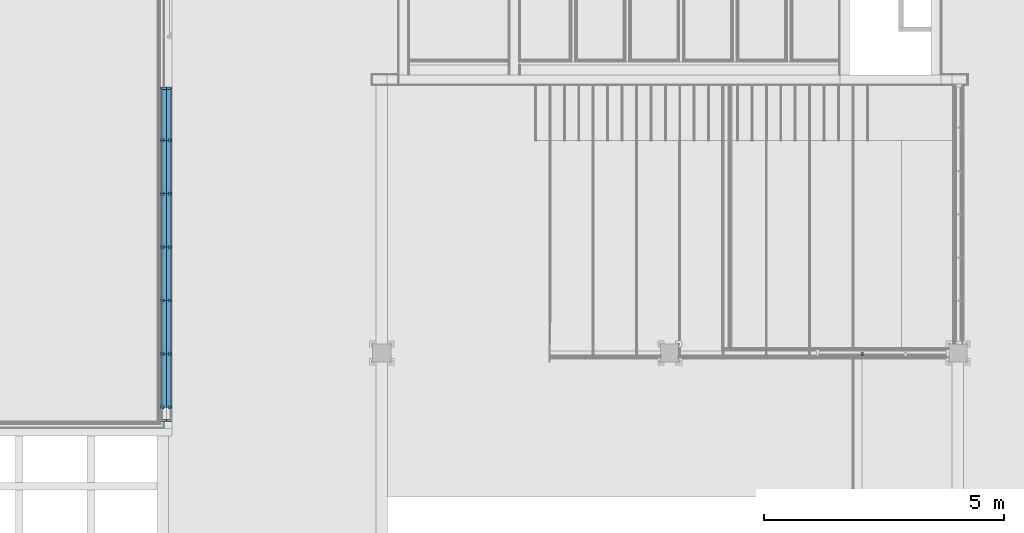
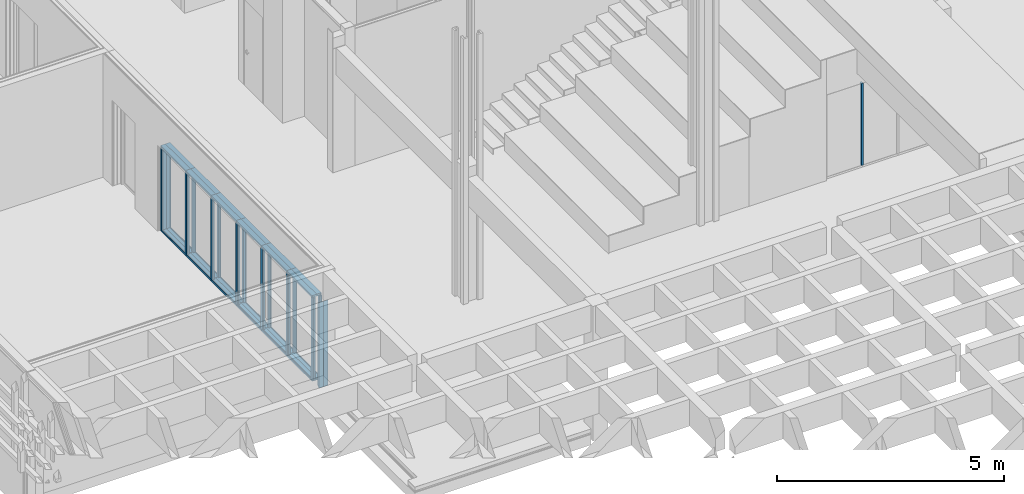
# One storey, part 7 of 139: 41 members, 3 elements without a shape of their own.
"""IFC2X3 building model written with IfcOpenShell, lengths in millimetres."""

from ifc_helpers import new_model, entity, si_unit, converted_unit, derived_unit, money_unit, direction, frame, origin_with_axes, place, context, subcontext, project, spatial, faceted_brep, source, transform, mapped, material, type_object, element, aggregate, save


model = new_model("IFC2X3")

# Units and contexts
model_context = context("Model", 3, precision=0.01, world=origin_with_axes(), true_north=direction((0.0, 1.0)))
body_context = subcontext(model_context, "Body", "Model", "MODEL_VIEW")
ifc_project = project(units=[si_unit("LENGTHUNIT", "METRE", prefix="MILLI"), si_unit("AREAUNIT", "SQUARE_METRE"), si_unit("VOLUMEUNIT", "CUBIC_METRE"), converted_unit("PLANEANGLEUNIT", "DEGREE", entity("IfcPlaneAngleMeasure", 0.0174532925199), si_unit("PLANEANGLEUNIT", "RADIAN"), dimensions=[0, 0, 0, 0, 0, 0, 0]), money_unit("EUR"), converted_unit("TIMEUNIT", "Year", entity("IfcTimeMeasure", 31556926.0), si_unit("TIMEUNIT", "SECOND"), dimensions=[0, 0, 1, 0, 0, 0, 0]), si_unit("MASSUNIT", "GRAM", prefix="KILO"), si_unit("THERMODYNAMICTEMPERATUREUNIT", "DEGREE_CELSIUS"), si_unit("LUMINOUSINTENSITYUNIT", "LUMEN"), si_unit("ENERGYUNIT", "JOULE", prefix="MEGA"), derived_unit("THERMALCONDUCTANCEUNIT", [(si_unit("POWERUNIT", "WATT"), 1), (si_unit("LENGTHUNIT", "METRE"), -1), (si_unit("THERMODYNAMICTEMPERATUREUNIT", "KELVIN"), -1)]), derived_unit("SPECIFICHEATCAPACITYUNIT", [(si_unit("ENERGYUNIT", "JOULE"), 1), (si_unit("MASSUNIT", "GRAM", prefix="KILO"), -1), (si_unit("THERMODYNAMICTEMPERATUREUNIT", "KELVIN"), -1)]), derived_unit("MASSDENSITYUNIT", [(si_unit("MASSUNIT", "GRAM", prefix="KILO"), 1), (si_unit("VOLUMEUNIT", "CUBIC_METRE"), -1)])], contexts=[model_context])

# Site, building, storey
site_placement = place(None, origin_with_axes())
site = spatial("IfcSite", under=ifc_project, at=site_placement, Name="Kolde pst 67a", CompositionType="ELEMENT")
building_placement = place(site_placement, origin_with_axes())
building = spatial("IfcBuilding", under=site, at=building_placement, Name="Riigigümnaasium", CompositionType="ELEMENT")
storey_placement = place(building_placement, frame((0.0, 0.0, 4600.0), z_axis=(0.0, 0.0, 1.0), x_axis=(1.0, 0.0, 0.0)))
storey = spatial("IfcBuildingStorey", under=building, at=storey_placement, Name="2. korrus", CompositionType="ELEMENT", Elevation=4600.0)

# Curtain wall, members
curtain_wall_type = type_object("IfcCurtainWallType", Name="Curtain Wall Type", PredefinedType="NOTDEFINED")
curtain_wall_1_placement = place(storey_placement, frame((31671.5141048, 43954.3993317, -3.29954614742e-05), z_axis=(0.0, 0.0, 1.0), x_axis=(1.0, 0.0, 0.0)))
curtain_wall_1 = element("IfcCurtainWall", 1, at=curtain_wall_1_placement, inside=storey, type_object=curtain_wall_type, Name="KLAASSEIN")
ifc_material_1 = material(Name="_METALL - alumiinium")
member_type_1 = type_object("IfcMemberType", Name="Mullion Frame 70 x 70", PredefinedType="MEMBER")
shared_shape_1 = source(origin_with_axes(), body_context, "Body", "Brep", [
    faceted_brep([(-5.0, -10.0, 2250.00020406), (-35.0, -10.0, 2250.00020406), (-35.0, -50.0, 2250.00020406), (35.0, -50.0, 2250.00020406), (35.0, -10.0, 2250.00020406), (5.0, -10.0, 2250.00020406), (5.0, 10.0, 2250.00020406), (35.0, 10.0, 2250.00020406), (35.0, 20.0, 2250.00020406), (-35.0, 20.0, 2250.00020406), (-35.0, 10.0, 2250.00020406), (-5.0, 10.0, 2250.00020406), (-5.0, -10.0, 50.0), (-35.0, -10.0, 50.0), (-35.0, -50.0, 50.0), (35.0, -50.0, 50.0), (35.0, -10.0, 50.0), (5.0, -10.0, 50.0), (5.0, 10.0, 50.0), (35.0, 10.0, 50.0), (35.0, 20.0, 50.0), (-35.0, 20.0, 50.0), (-35.0, 10.0, 50.0), (-5.0, 10.0, 50.0)], [[[0, 1, 2, 3, 4, 5, 6, 7, 8, 9, 10, 11]], [[1, 0, 12, 13]], [[1, 13, 14, 2]], [[2, 14, 15, 3]], [[4, 3, 15, 16]], [[4, 16, 17, 5]], [[5, 17, 18, 6]], [[7, 6, 18, 19]], [[19, 20, 8, 7]], [[8, 20, 21, 9]], [[22, 10, 9, 21]], [[11, 10, 22, 23]], [[0, 11, 23, 12]], [[23, 22, 21, 20, 19, 18, 17, 16, 15, 14, 13, 12]]]),
])
member_1_placement = place(curtain_wall_1_placement, frame((0.0, 555.0, 0.0), z_axis=(0.0, 0.0, 1.0), x_axis=(0.0, 1.0, 0.0)))
member_1 = element("IfcMember", 2, at=member_1_placement, type_object=member_type_1, material=ifc_material_1, Name="RF RAAM VERT-282", ObjectType="MEMBER", context=body_context, shape_type="MappedRepresentation", body=[
    mapped(shared_shape_1, transform((0.0, 0.0, 0.0))),
])
member_2_placement = place(curtain_wall_1_placement, frame((0.0, -555.0, 0.0), z_axis=(0.0, 0.0, 1.0), x_axis=(0.0, 1.0, 0.0)))
member_2 = element("IfcMember", 3, at=member_2_placement, type_object=member_type_1, material=ifc_material_1, Name="RF RAAM VERT-283", ObjectType="MEMBER", context=body_context, shape_type="MappedRepresentation", body=[
    mapped(shared_shape_1, transform((0.0, 0.0, 0.0))),
])
member_3_placement = place(curtain_wall_1_placement, frame((0.0, -1665.0, 0.0), z_axis=(0.0, 0.0, 1.0), x_axis=(0.0, 1.0, 0.0)))
member_3 = element("IfcMember", 4, at=member_3_placement, type_object=member_type_1, material=ifc_material_1, Name="RF RAAM VERT-284", ObjectType="MEMBER", context=body_context, shape_type="MappedRepresentation", body=[
    mapped(shared_shape_1, transform((0.0, 0.0, 0.0))),
])
member_4_placement = place(curtain_wall_1_placement, frame((0.0, -2775.0, 0.0), z_axis=(0.0, 0.0, 1.0), x_axis=(0.0, 1.0, 0.0)))
member_4 = element("IfcMember", 5, at=member_4_placement, type_object=member_type_1, material=ifc_material_1, Name="RF RAAM VERT-285", ObjectType="MEMBER", context=body_context, shape_type="MappedRepresentation", body=[
    mapped(shared_shape_1, transform((0.0, 0.0, 0.0))),
])
member_5_placement = place(curtain_wall_1_placement, frame((0.0, -3885.0, 0.0), z_axis=(0.0, 0.0, 1.0), x_axis=(0.0, 1.0, 0.0)))
member_5 = element("IfcMember", 6, at=member_5_placement, type_object=member_type_1, material=ifc_material_1, Name="RF RAAM VERT-308", ObjectType="MEMBER", context=body_context, shape_type="MappedRepresentation", body=[
    mapped(shared_shape_1, transform((0.0, 0.0, 0.0))),
])
member_6_placement = place(curtain_wall_1_placement, frame((0.0, -4995.0, 0.0), z_axis=(0.0, 0.0, 1.0), x_axis=(0.0, 1.0, 0.0)))
member_6 = element("IfcMember", 7, at=member_6_placement, type_object=member_type_1, material=ifc_material_1, Name="RF RAAM VERT-309", ObjectType="MEMBER", context=body_context, shape_type="MappedRepresentation", body=[
    mapped(shared_shape_1, transform((0.0, 0.0, 0.0))),
])

# Curtain wall, member
curtain_wall_2_placement = place(storey_placement, frame((31870.0027331, 43954.3993317, -4.05869560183e-06), z_axis=(0.0, 0.0, 1.0), x_axis=(1.0, 0.0, 0.0)))
curtain_wall_2 = element("IfcCurtainWall", 8, at=curtain_wall_2_placement, inside=storey, type_object=curtain_wall_type, Name="KLAASSEIN")
member_type_2 = type_object("IfcMemberType", Name="Boundary Frame 50 x 120", PredefinedType="MEMBER")
shared_shape_2 = source(origin_with_axes(), body_context, "Body", "Brep", [
    faceted_brep([(30.0, -10.0, 2270.00020406), (30.0, 10.0, 2270.00020406), (50.0, 10.0, 2250.00020406), (50.0, 20.0, 2250.00020406), (0.0, 20.0, 2300.00020406), (0.0, -100.0, 2300.00020406), (50.0, -100.0, 2250.00020406), (50.0, -10.0, 2250.00020406), (30.0, -10.0, 30.0), (30.0, 10.0, 30.0), (50.0, 10.0, 50.0), (50.0, 20.0, 50.0), (0.0, 20.0, 0.0), (0.0, -100.0, 0.0), (50.0, -100.0, 50.0), (50.0, -10.0, 50.0)], [[[0, 1, 2, 3, 4, 5, 6, 7]], [[1, 0, 8, 9]], [[10, 2, 1, 9]], [[2, 10, 11, 3]], [[4, 3, 11, 12]], [[5, 4, 12, 13]], [[6, 5, 13, 14]], [[15, 7, 6, 14]], [[0, 7, 15, 8]], [[8, 15, 14, 13, 12, 11, 10, 9]]]),
])
member_7_placement = place(curtain_wall_2_placement, frame((0.0, 1665.0, 0.0), z_axis=(0.0, 0.0, 1.0), x_axis=(0.0, 1.0, 0.0)))
member_7 = element("IfcMember", 9, at=member_7_placement, type_object=member_type_2, material=ifc_material_1, Name="RF RAAM SERV-047", ObjectType="MEMBER", context=body_context, shape_type="MappedRepresentation", body=[
    mapped(shared_shape_2, transform((0.0, 0.0, 0.0), x_axis=(-1.0, 0.0, 0.0), y_axis=(0.0, -1.0, 0.0), z_axis=(0.0, 0.0, 1.0))),
])

# Member
member_8_placement = place(curtain_wall_1_placement, frame((0.0, -5294.41843439, 0.0), z_axis=(0.0, 0.0, 1.0), x_axis=(0.0, 1.0, 0.0)))
member_8 = element("IfcMember", 10, at=member_8_placement, type_object=member_type_2, material=ifc_material_1, Name="RF RAAM SERV-073", ObjectType="MEMBER", context=body_context, shape_type="MappedRepresentation", body=[
    mapped(shared_shape_2, transform((0.0, 0.0, 0.0))),
])

shared_shape_3 = source(origin_with_axes(), body_context, "Body", "Brep", [
    faceted_brep([(5.0, -10.0, 2250.00021133), (5.0, 10.0, 2250.00021133), (35.0, 10.0, 2250.00021133), (35.0, 20.0, 2250.00021133), (-35.0, 20.0, 2250.00021133), (-35.0, 10.0, 2250.00021133), (-5.0, 10.0, 2250.00021133), (-5.0, -10.0, 2250.00021133), (-35.0, -10.0, 2250.00021133), (-35.0, -50.0, 2250.00021133), (35.0, -50.0, 2250.00021133), (35.0, -10.0, 2250.00021133), (5.0, -10.0, 50.0), (5.0, 10.0, 50.0), (35.0, 10.0, 50.0), (35.0, 20.0, 50.0), (-35.0, 20.0, 50.0), (-35.0, 10.0, 50.0), (-5.0, 10.0, 50.0), (-5.0, -10.0, 50.0), (-35.0, -10.0, 50.0), (-35.0, -50.0, 50.0), (35.0, -50.0, 50.0), (35.0, -10.0, 50.0)], [[[0, 1, 2, 3, 4, 5, 6, 7, 8, 9, 10, 11]], [[0, 12, 13, 1]], [[1, 13, 14, 2]], [[14, 15, 3, 2]], [[4, 3, 15, 16]], [[17, 5, 4, 16]], [[5, 17, 18, 6]], [[7, 6, 18, 19]], [[8, 7, 19, 20]], [[8, 20, 21, 9]], [[10, 9, 21, 22]], [[11, 10, 22, 23]], [[11, 23, 12, 0]], [[13, 12, 23, 22, 21, 20, 19, 18, 17, 16, 15, 14]]]),
])
member_9_placement = place(curtain_wall_2_placement, frame((0.0, 555.0, 0.0), z_axis=(0.0, 0.0, 1.0), x_axis=(0.0, 1.0, 0.0)))
member_9 = element("IfcMember", 11, at=member_9_placement, type_object=member_type_1, material=ifc_material_1, Name="RF RAAM VERT-282", ObjectType="MEMBER", context=body_context, shape_type="MappedRepresentation", body=[
    mapped(shared_shape_3, transform((0.0, 0.0, 0.0), x_axis=(-1.0, 0.0, 0.0), y_axis=(0.0, -1.0, 0.0), z_axis=(0.0, 0.0, 1.0))),
])

member_10_placement = place(curtain_wall_2_placement, frame((0.0, -555.0, 0.0), z_axis=(0.0, 0.0, 1.0), x_axis=(0.0, 1.0, 0.0)))
member_10 = element("IfcMember", 12, at=member_10_placement, type_object=member_type_1, material=ifc_material_1, Name="RF RAAM VERT-283", ObjectType="MEMBER", context=body_context, shape_type="MappedRepresentation", body=[
    mapped(shared_shape_3, transform((0.0, 0.0, 0.0), x_axis=(-1.0, 0.0, 0.0), y_axis=(0.0, -1.0, 0.0), z_axis=(0.0, 0.0, 1.0))),
])

member_11_placement = place(curtain_wall_2_placement, frame((0.0, -1665.0, 0.0), z_axis=(0.0, 0.0, 1.0), x_axis=(0.0, 1.0, 0.0)))
member_11 = element("IfcMember", 13, at=member_11_placement, type_object=member_type_1, material=ifc_material_1, Name="RF RAAM VERT-284", ObjectType="MEMBER", context=body_context, shape_type="MappedRepresentation", body=[
    mapped(shared_shape_3, transform((0.0, 0.0, 0.0), x_axis=(-1.0, 0.0, 0.0), y_axis=(0.0, -1.0, 0.0), z_axis=(0.0, 0.0, 1.0))),
])

member_12_placement = place(curtain_wall_2_placement, frame((0.0, -2775.0, 0.0), z_axis=(0.0, 0.0, 1.0), x_axis=(0.0, 1.0, 0.0)))
member_12 = element("IfcMember", 14, at=member_12_placement, type_object=member_type_1, material=ifc_material_1, Name="RF RAAM VERT-285", ObjectType="MEMBER", context=body_context, shape_type="MappedRepresentation", body=[
    mapped(shared_shape_3, transform((0.0, 0.0, 0.0), x_axis=(-1.0, 0.0, 0.0), y_axis=(0.0, -1.0, 0.0), z_axis=(0.0, 0.0, 1.0))),
])

member_13_placement = place(curtain_wall_2_placement, frame((0.0, -3885.0, 0.0), z_axis=(0.0, 0.0, 1.0), x_axis=(0.0, 1.0, 0.0)))
member_13 = element("IfcMember", 15, at=member_13_placement, type_object=member_type_1, material=ifc_material_1, Name="RF RAAM VERT-308", ObjectType="MEMBER", context=body_context, shape_type="MappedRepresentation", body=[
    mapped(shared_shape_3, transform((0.0, 0.0, 0.0), x_axis=(-1.0, 0.0, 0.0), y_axis=(0.0, -1.0, 0.0), z_axis=(0.0, 0.0, 1.0))),
])

member_14_placement = place(curtain_wall_2_placement, frame((0.0, -4995.0, 0.0), z_axis=(0.0, 0.0, 1.0), x_axis=(0.0, 1.0, 0.0)))
member_14 = element("IfcMember", 16, at=member_14_placement, type_object=member_type_1, material=ifc_material_1, Name="RF RAAM VERT-309", ObjectType="MEMBER", context=body_context, shape_type="MappedRepresentation", body=[
    mapped(shared_shape_3, transform((0.0, 0.0, 0.0), x_axis=(-1.0, 0.0, 0.0), y_axis=(0.0, -1.0, 0.0), z_axis=(0.0, 0.0, 1.0))),
])

shared_shape_4 = source(origin_with_axes(), body_context, "Body", "Brep", [
    faceted_brep([(-30.0, -10.0, 2270.00021133), (-50.0, -10.0, 2250.00021133), (-50.0, -100.0, 2250.00021133), (0.0, -100.0, 2300.00021133), (0.0, 20.0, 2300.00021133), (-50.0, 20.0, 2250.00021133), (-50.0, 10.0, 2250.00021133), (-30.0, 10.0, 2270.00021133), (-30.0, -10.0, 30.0), (-50.0, -10.0, 50.0), (-50.0, -100.0, 50.0), (0.0, -100.0, 0.0), (0.0, 20.0, 0.0), (-50.0, 20.0, 50.0), (-50.0, 10.0, 50.0), (-30.0, 10.0, 30.0)], [[[0, 1, 2, 3, 4, 5, 6, 7]], [[0, 8, 9, 1]], [[9, 10, 2, 1]], [[2, 10, 11, 3]], [[3, 11, 12, 4]], [[4, 12, 13, 5]], [[6, 5, 13, 14]], [[14, 15, 7, 6]], [[7, 15, 8, 0]], [[8, 15, 14, 13, 12, 11, 10, 9]]]),
])
member_15_placement = place(curtain_wall_2_placement, frame((0.0, -5294.41843439, 0.0), z_axis=(0.0, 0.0, 1.0), x_axis=(0.0, 1.0, 0.0)))
member_15 = element("IfcMember", 17, at=member_15_placement, type_object=member_type_2, material=ifc_material_1, Name="RF RAAM SERV-055", ObjectType="MEMBER", context=body_context, shape_type="MappedRepresentation", body=[
    mapped(shared_shape_4, transform((0.0, 0.0, 0.0), x_axis=(-1.0, 0.0, 0.0), y_axis=(0.0, -1.0, 0.0), z_axis=(0.0, 0.0, 1.0))),
])

member_16_placement = place(curtain_wall_1_placement, frame((0.0, 1665.0, 0.0), z_axis=(0.0, 0.0, 1.0), x_axis=(0.0, 1.0, 0.0)))
member_16 = element("IfcMember", 18, at=member_16_placement, type_object=member_type_2, material=ifc_material_1, Name="RF RAAM SERV-065", ObjectType="MEMBER", context=body_context, shape_type="MappedRepresentation", body=[
    mapped(shared_shape_4, transform((0.0, 0.0, 0.0))),
])

shared_shape_5 = source(origin_with_axes(), body_context, "Body", "Brep", [
    faceted_brep([(30.0, -10.0, 1110.0), (30.0, 10.0, 1110.0), (50.0, 10.0, 1110.0), (50.0, 20.0, 1110.0), (0.0, 20.0, 1110.0), (0.0, -100.0, 1110.0), (50.0, -100.0, 1110.0), (50.0, -10.0, 1110.0), (30.0, -10.0, 30.0), (30.0, 10.0, 30.0), (50.0, 10.0, 50.0), (50.0, 20.0, 50.0), (0.0, 20.0, 0.0), (0.0, -100.0, 0.0), (50.0, -100.0, 50.0), (50.0, -10.0, 50.0)], [[[0, 1, 2, 3, 4, 5, 6, 7]], [[1, 0, 8, 9]], [[10, 2, 1, 9]], [[2, 10, 11, 3]], [[4, 3, 11, 12]], [[5, 4, 12, 13]], [[6, 5, 13, 14]], [[15, 7, 6, 14]], [[0, 7, 15, 8]], [[8, 15, 14, 13, 12, 11, 10, 9]]]),
])
member_17_placement = place(curtain_wall_2_placement, frame((0.0, 1665.0, 2300.00000406), z_axis=(0.0, -1.0, 0.0), x_axis=(0.0, 0.0, 1.0)))
member_17 = element("IfcMember", 19, at=member_17_placement, type_object=member_type_2, material=ifc_material_1, Name="RF RAAM SERV-062", ObjectType="MEMBER", context=body_context, shape_type="MappedRepresentation", body=[
    mapped(shared_shape_5, transform((0.0, 0.0, 0.0), x_axis=(-1.0, 0.0, 0.0), y_axis=(0.0, -1.0, 0.0), z_axis=(0.0, 0.0, 1.0))),
])

member_18_placement = place(curtain_wall_1_placement, frame((0.0, 1665.0, 0.0), z_axis=(0.0, -1.0, 0.0), x_axis=(0.0, 0.0, 1.0)))
member_18 = element("IfcMember", 20, at=member_18_placement, type_object=member_type_2, material=ifc_material_1, Name="RF RAAM SERV-066", ObjectType="MEMBER", context=body_context, shape_type="MappedRepresentation", body=[
    mapped(shared_shape_5, transform((0.0, 0.0, 0.0))),
])

shared_shape_6 = source(origin_with_axes(), body_context, "Body", "Brep", [
    faceted_brep([(-30.0, -10.0, 1110.0), (-50.0, -10.0, 1110.0), (-50.0, -100.0, 1110.0), (0.0, -100.0, 1110.0), (0.0, 20.0, 1110.0), (-50.0, 20.0, 1110.0), (-50.0, 10.0, 1110.0), (-30.0, 10.0, 1110.0), (-30.0, -10.0, 0.0), (-50.0, -10.0, 0.0), (-50.0, -100.0, 0.0), (0.0, -100.0, 0.0), (0.0, 20.0, 0.0), (-50.0, 20.0, 0.0), (-50.0, 10.0, 0.0), (-30.0, 10.0, 0.0)], [[[0, 1, 2, 3, 4, 5, 6, 7]], [[0, 8, 9, 1]], [[9, 10, 2, 1]], [[10, 11, 3, 2]], [[11, 12, 4, 3]], [[12, 13, 5, 4]], [[6, 5, 13, 14]], [[14, 15, 7, 6]], [[7, 15, 8, 0]], [[8, 15, 14, 13, 12, 11, 10, 9]]]),
])
member_19_placement = place(curtain_wall_2_placement, frame((0.0, 555.0, 0.0), z_axis=(0.0, -1.0, 0.0), x_axis=(0.0, 0.0, 1.0)))
member_19 = element("IfcMember", 21, at=member_19_placement, type_object=member_type_2, material=ifc_material_1, Name="RF RAAM SERV-049", ObjectType="MEMBER", context=body_context, shape_type="MappedRepresentation", body=[
    mapped(shared_shape_6, transform((0.0, 0.0, 0.0), x_axis=(-1.0, 0.0, 0.0), y_axis=(0.0, -1.0, 0.0), z_axis=(0.0, 0.0, 1.0))),
])

member_20_placement = place(curtain_wall_2_placement, frame((0.0, -555.0, 0.0), z_axis=(0.0, -1.0, 0.0), x_axis=(0.0, 0.0, 1.0)))
member_20 = element("IfcMember", 22, at=member_20_placement, type_object=member_type_2, material=ifc_material_1, Name="RF RAAM SERV-050", ObjectType="MEMBER", context=body_context, shape_type="MappedRepresentation", body=[
    mapped(shared_shape_6, transform((0.0, 0.0, 0.0), x_axis=(-1.0, 0.0, 0.0), y_axis=(0.0, -1.0, 0.0), z_axis=(0.0, 0.0, 1.0))),
])

member_21_placement = place(curtain_wall_2_placement, frame((0.0, -1665.0, 0.0), z_axis=(0.0, -1.0, 0.0), x_axis=(0.0, 0.0, 1.0)))
member_21 = element("IfcMember", 23, at=member_21_placement, type_object=member_type_2, material=ifc_material_1, Name="RF RAAM SERV-051", ObjectType="MEMBER", context=body_context, shape_type="MappedRepresentation", body=[
    mapped(shared_shape_6, transform((0.0, 0.0, 0.0), x_axis=(-1.0, 0.0, 0.0), y_axis=(0.0, -1.0, 0.0), z_axis=(0.0, 0.0, 1.0))),
])

member_22_placement = place(curtain_wall_2_placement, frame((0.0, -2775.0, 0.0), z_axis=(0.0, -1.0, 0.0), x_axis=(0.0, 0.0, 1.0)))
member_22 = element("IfcMember", 24, at=member_22_placement, type_object=member_type_2, material=ifc_material_1, Name="RF RAAM SERV-052", ObjectType="MEMBER", context=body_context, shape_type="MappedRepresentation", body=[
    mapped(shared_shape_6, transform((0.0, 0.0, 0.0), x_axis=(-1.0, 0.0, 0.0), y_axis=(0.0, -1.0, 0.0), z_axis=(0.0, 0.0, 1.0))),
])

member_23_placement = place(curtain_wall_2_placement, frame((0.0, -3885.0, 0.0), z_axis=(0.0, -1.0, 0.0), x_axis=(0.0, 0.0, 1.0)))
member_23 = element("IfcMember", 25, at=member_23_placement, type_object=member_type_2, material=ifc_material_1, Name="RF RAAM SERV-053", ObjectType="MEMBER", context=body_context, shape_type="MappedRepresentation", body=[
    mapped(shared_shape_6, transform((0.0, 0.0, 0.0), x_axis=(-1.0, 0.0, 0.0), y_axis=(0.0, -1.0, 0.0), z_axis=(0.0, 0.0, 1.0))),
])

member_24_placement = place(curtain_wall_1_placement, frame((0.0, 555.0, 2300.000033), z_axis=(0.0, -1.0, 0.0), x_axis=(0.0, 0.0, 1.0)))
member_24 = element("IfcMember", 26, at=member_24_placement, type_object=member_type_2, material=ifc_material_1, Name="RF RAAM SERV-079", ObjectType="MEMBER", context=body_context, shape_type="MappedRepresentation", body=[
    mapped(shared_shape_6, transform((0.0, 0.0, 0.0))),
])

member_25_placement = place(curtain_wall_1_placement, frame((0.0, -555.0, 2300.000033), z_axis=(0.0, -1.0, 0.0), x_axis=(0.0, 0.0, 1.0)))
member_25 = element("IfcMember", 27, at=member_25_placement, type_object=member_type_2, material=ifc_material_1, Name="RF RAAM SERV-078", ObjectType="MEMBER", context=body_context, shape_type="MappedRepresentation", body=[
    mapped(shared_shape_6, transform((0.0, 0.0, 0.0))),
])

member_26_placement = place(curtain_wall_1_placement, frame((0.0, -1665.0, 2300.000033), z_axis=(0.0, -1.0, 0.0), x_axis=(0.0, 0.0, 1.0)))
member_26 = element("IfcMember", 28, at=member_26_placement, type_object=member_type_2, material=ifc_material_1, Name="RF RAAM SERV-077", ObjectType="MEMBER", context=body_context, shape_type="MappedRepresentation", body=[
    mapped(shared_shape_6, transform((0.0, 0.0, 0.0))),
])

member_27_placement = place(curtain_wall_1_placement, frame((0.0, -2775.0, 2300.000033), z_axis=(0.0, -1.0, 0.0), x_axis=(0.0, 0.0, 1.0)))
member_27 = element("IfcMember", 29, at=member_27_placement, type_object=member_type_2, material=ifc_material_1, Name="RF RAAM SERV-076", ObjectType="MEMBER", context=body_context, shape_type="MappedRepresentation", body=[
    mapped(shared_shape_6, transform((0.0, 0.0, 0.0))),
])

member_28_placement = place(curtain_wall_1_placement, frame((0.0, -3885.0, 2300.000033), z_axis=(0.0, -1.0, 0.0), x_axis=(0.0, 0.0, 1.0)))
member_28 = element("IfcMember", 30, at=member_28_placement, type_object=member_type_2, material=ifc_material_1, Name="RF RAAM SERV-075", ObjectType="MEMBER", context=body_context, shape_type="MappedRepresentation", body=[
    mapped(shared_shape_6, transform((0.0, 0.0, 0.0))),
])

shared_shape_7 = source(origin_with_axes(), body_context, "Body", "Brep", [
    faceted_brep([(30.0, -10.0, 1110.0), (30.0, 10.0, 1110.0), (50.0, 10.0, 1110.0), (50.0, 20.0, 1110.0), (0.0, 20.0, 1110.0), (0.0, -100.0, 1110.0), (50.0, -100.0, 1110.0), (50.0, -10.0, 1110.0), (30.0, -10.0, 0.0), (30.0, 10.0, 0.0), (50.0, 10.0, 0.0), (50.0, 20.0, 0.0), (0.0, 20.0, 0.0), (0.0, -100.0, 0.0), (50.0, -100.0, 0.0), (50.0, -10.0, 0.0)], [[[0, 1, 2, 3, 4, 5, 6, 7]], [[1, 0, 8, 9]], [[10, 2, 1, 9]], [[2, 10, 11, 3]], [[12, 4, 3, 11]], [[13, 5, 4, 12]], [[14, 6, 5, 13]], [[15, 7, 6, 14]], [[0, 7, 15, 8]], [[8, 15, 14, 13, 12, 11, 10, 9]]]),
])
member_29_placement = place(curtain_wall_2_placement, frame((0.0, 555.0, 2300.00000406), z_axis=(0.0, -1.0, 0.0), x_axis=(0.0, 0.0, 1.0)))
member_29 = element("IfcMember", 31, at=member_29_placement, type_object=member_type_2, material=ifc_material_1, Name="RF RAAM SERV-061", ObjectType="MEMBER", context=body_context, shape_type="MappedRepresentation", body=[
    mapped(shared_shape_7, transform((0.0, 0.0, 0.0), x_axis=(-1.0, 0.0, 0.0), y_axis=(0.0, -1.0, 0.0), z_axis=(0.0, 0.0, 1.0))),
])

member_30_placement = place(curtain_wall_2_placement, frame((0.0, -555.0, 2300.00000406), z_axis=(0.0, -1.0, 0.0), x_axis=(0.0, 0.0, 1.0)))
member_30 = element("IfcMember", 32, at=member_30_placement, type_object=member_type_2, material=ifc_material_1, Name="RF RAAM SERV-060", ObjectType="MEMBER", context=body_context, shape_type="MappedRepresentation", body=[
    mapped(shared_shape_7, transform((0.0, 0.0, 0.0), x_axis=(-1.0, 0.0, 0.0), y_axis=(0.0, -1.0, 0.0), z_axis=(0.0, 0.0, 1.0))),
])

member_31_placement = place(curtain_wall_2_placement, frame((0.0, -1665.0, 2300.00000406), z_axis=(0.0, -1.0, 0.0), x_axis=(0.0, 0.0, 1.0)))
member_31 = element("IfcMember", 33, at=member_31_placement, type_object=member_type_2, material=ifc_material_1, Name="RF RAAM SERV-059", ObjectType="MEMBER", context=body_context, shape_type="MappedRepresentation", body=[
    mapped(shared_shape_7, transform((0.0, 0.0, 0.0), x_axis=(-1.0, 0.0, 0.0), y_axis=(0.0, -1.0, 0.0), z_axis=(0.0, 0.0, 1.0))),
])

member_32_placement = place(curtain_wall_2_placement, frame((0.0, -2775.0, 2300.00000406), z_axis=(0.0, -1.0, 0.0), x_axis=(0.0, 0.0, 1.0)))
member_32 = element("IfcMember", 34, at=member_32_placement, type_object=member_type_2, material=ifc_material_1, Name="RF RAAM SERV-058", ObjectType="MEMBER", context=body_context, shape_type="MappedRepresentation", body=[
    mapped(shared_shape_7, transform((0.0, 0.0, 0.0), x_axis=(-1.0, 0.0, 0.0), y_axis=(0.0, -1.0, 0.0), z_axis=(0.0, 0.0, 1.0))),
])

member_33_placement = place(curtain_wall_2_placement, frame((0.0, -3885.0, 2300.00000406), z_axis=(0.0, -1.0, 0.0), x_axis=(0.0, 0.0, 1.0)))
member_33 = element("IfcMember", 35, at=member_33_placement, type_object=member_type_2, material=ifc_material_1, Name="RF RAAM SERV-057", ObjectType="MEMBER", context=body_context, shape_type="MappedRepresentation", body=[
    mapped(shared_shape_7, transform((0.0, 0.0, 0.0), x_axis=(-1.0, 0.0, 0.0), y_axis=(0.0, -1.0, 0.0), z_axis=(0.0, 0.0, 1.0))),
])

member_34_placement = place(curtain_wall_1_placement, frame((0.0, 555.0, 0.0), z_axis=(0.0, -1.0, 0.0), x_axis=(0.0, 0.0, 1.0)))
member_34 = element("IfcMember", 36, at=member_34_placement, type_object=member_type_2, material=ifc_material_1, Name="RF RAAM SERV-067", ObjectType="MEMBER", context=body_context, shape_type="MappedRepresentation", body=[
    mapped(shared_shape_7, transform((0.0, 0.0, 0.0))),
])

member_35_placement = place(curtain_wall_1_placement, frame((0.0, -555.0, 0.0), z_axis=(0.0, -1.0, 0.0), x_axis=(0.0, 0.0, 1.0)))
member_35 = element("IfcMember", 37, at=member_35_placement, type_object=member_type_2, material=ifc_material_1, Name="RF RAAM SERV-068", ObjectType="MEMBER", context=body_context, shape_type="MappedRepresentation", body=[
    mapped(shared_shape_7, transform((0.0, 0.0, 0.0))),
])

member_36_placement = place(curtain_wall_1_placement, frame((0.0, -1665.0, 0.0), z_axis=(0.0, -1.0, 0.0), x_axis=(0.0, 0.0, 1.0)))
member_36 = element("IfcMember", 38, at=member_36_placement, type_object=member_type_2, material=ifc_material_1, Name="RF RAAM SERV-069", ObjectType="MEMBER", context=body_context, shape_type="MappedRepresentation", body=[
    mapped(shared_shape_7, transform((0.0, 0.0, 0.0))),
])

member_37_placement = place(curtain_wall_1_placement, frame((0.0, -2775.0, 0.0), z_axis=(0.0, -1.0, 0.0), x_axis=(0.0, 0.0, 1.0)))
member_37 = element("IfcMember", 39, at=member_37_placement, type_object=member_type_2, material=ifc_material_1, Name="RF RAAM SERV-070", ObjectType="MEMBER", context=body_context, shape_type="MappedRepresentation", body=[
    mapped(shared_shape_7, transform((0.0, 0.0, 0.0))),
])

member_38_placement = place(curtain_wall_1_placement, frame((0.0, -3885.0, 0.0), z_axis=(0.0, -1.0, 0.0), x_axis=(0.0, 0.0, 1.0)))
member_38 = element("IfcMember", 40, at=member_38_placement, type_object=member_type_2, material=ifc_material_1, Name="RF RAAM SERV-071", ObjectType="MEMBER", context=body_context, shape_type="MappedRepresentation", body=[
    mapped(shared_shape_7, transform((0.0, 0.0, 0.0))),
])

shared_shape_8 = source(origin_with_axes(), body_context, "Body", "Brep", [
    faceted_brep([(-30.0, -10.0, 1110.0), (-50.0, -10.0, 1110.0), (-50.0, -100.0, 1110.0), (0.0, -100.0, 1110.0), (0.0, 20.0, 1110.0), (-50.0, 20.0, 1110.0), (-50.0, 10.0, 1110.0), (-30.0, 10.0, 1110.0), (-30.0, -10.0, 30.0), (-50.0, -10.0, 50.0), (-50.0, -100.0, 50.0), (0.0, -100.0, 0.0), (0.0, 20.0, 0.0), (-50.0, 20.0, 50.0), (-50.0, 10.0, 50.0), (-30.0, 10.0, 30.0)], [[[0, 1, 2, 3, 4, 5, 6, 7]], [[0, 8, 9, 1]], [[9, 10, 2, 1]], [[2, 10, 11, 3]], [[3, 11, 12, 4]], [[4, 12, 13, 5]], [[6, 5, 13, 14]], [[14, 15, 7, 6]], [[7, 15, 8, 0]], [[8, 15, 14, 13, 12, 11, 10, 9]]]),
])
member_39_placement = place(curtain_wall_2_placement, frame((0.0, 1665.0, 0.0), z_axis=(0.0, -1.0, 0.0), x_axis=(0.0, 0.0, 1.0)))
member_39 = element("IfcMember", 41, at=member_39_placement, type_object=member_type_2, material=ifc_material_1, Name="RF RAAM SERV-048", ObjectType="MEMBER", context=body_context, shape_type="MappedRepresentation", body=[
    mapped(shared_shape_8, transform((0.0, 0.0, 0.0), x_axis=(-1.0, 0.0, 0.0), y_axis=(0.0, -1.0, 0.0), z_axis=(0.0, 0.0, 1.0))),
])

aggregate(curtain_wall_2, [member_17, member_19, member_29, member_9, member_20, member_30, member_10, member_21, member_31, member_11, member_12, member_22, member_13, member_14, member_23, member_32, member_33, member_39, member_7, member_15])

member_40_placement = place(curtain_wall_1_placement, frame((0.0, 1665.0, 2300.000033), z_axis=(0.0, -1.0, 0.0), x_axis=(0.0, 0.0, 1.0)))
member_40 = element("IfcMember", 42, at=member_40_placement, type_object=member_type_2, material=ifc_material_1, Name="RF RAAM SERV-080", ObjectType="MEMBER", context=body_context, shape_type="MappedRepresentation", body=[
    mapped(shared_shape_8, transform((0.0, 0.0, 0.0))),
])

aggregate(curtain_wall_1, [member_40, member_34, member_24, member_1, member_35, member_25, member_2, member_36, member_26, member_3, member_4, member_37, member_5, member_6, member_38, member_27, member_28, member_18, member_16, member_8])

# Curtain wall, member
curtain_wall_3_placement = place(storey_placement, frame((47589.9854607, 40044.9999177, -2.01657108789e-05), z_axis=(0.0, 0.0, 1.0), x_axis=(1.0, 0.0, 0.0)))
curtain_wall_3 = element("IfcCurtainWall", 43, at=curtain_wall_3_placement, inside=storey, type_object=curtain_wall_type, Name="KLAASSEIN")
ifc_material_2 = material(Name="_KANDETARIND - puitkarkass")
member_type_3 = type_object("IfcMemberType", Name="Mullion Frame 50 x 70", PredefinedType="MEMBER")
shared_shape_9 = source(origin_with_axes(), body_context, "Body", "Brep", [
    faceted_brep([(5.0, -5.0, 2250.00002017), (5.0, 5.0, 2250.00002017), (25.0, 5.0, 2250.00002017), (25.0, 20.0, 2250.00002017), (-25.0, 20.0, 2250.00002017), (-25.0, 5.0, 2250.00002017), (-5.0, 5.0, 2250.00002017), (-5.0, -5.0, 2250.00002017), (-25.0, -5.0, 2250.00002017), (-25.0, -50.0, 2250.00002017), (25.0, -50.0, 2250.00002017), (25.0, -5.0, 2250.00002017), (5.0, -5.0, 50.0), (5.0, 5.0, 50.0), (25.0, 5.0, 50.0), (25.0, 20.0, 50.0), (-25.0, 20.0, 50.0), (-25.0, 5.0, 50.0), (-5.0, 5.0, 50.0), (-5.0, -5.0, 50.0), (-25.0, -5.0, 50.0), (-25.0, -50.0, 50.0), (25.0, -50.0, 50.0), (25.0, -5.0, 50.0)], [[[0, 1, 2, 3, 4, 5, 6, 7, 8, 9, 10, 11]], [[0, 12, 13, 1]], [[1, 13, 14, 2]], [[14, 15, 3, 2]], [[4, 3, 15, 16]], [[17, 5, 4, 16]], [[5, 17, 18, 6]], [[7, 6, 18, 19]], [[8, 7, 19, 20]], [[8, 20, 21, 9]], [[10, 9, 21, 22]], [[11, 10, 22, 23]], [[11, 23, 12, 0]], [[13, 12, 23, 22, 21, 20, 19, 18, 17, 16, 15, 14]]]),
])
member_41_placement = place(curtain_wall_3_placement, frame((-1350.0, 0.0, 0.0), z_axis=(0.0, 0.0, 1.0), x_axis=(1.0, 0.0, 0.0)))
member_41 = element("IfcMember", 44, at=member_41_placement, type_object=member_type_3, material=ifc_material_2, Name="RF RAAM VERT-336", ObjectType="MEMBER", context=body_context, shape_type="MappedRepresentation", body=[
    mapped(shared_shape_9, transform((0.0, 0.0, 0.0), x_axis=(-1.0, 0.0, 0.0), y_axis=(0.0, -1.0, 0.0), z_axis=(0.0, 0.0, 1.0))),
])
aggregate(curtain_wall_3, [member_41])

save(model, "model.ifc")
